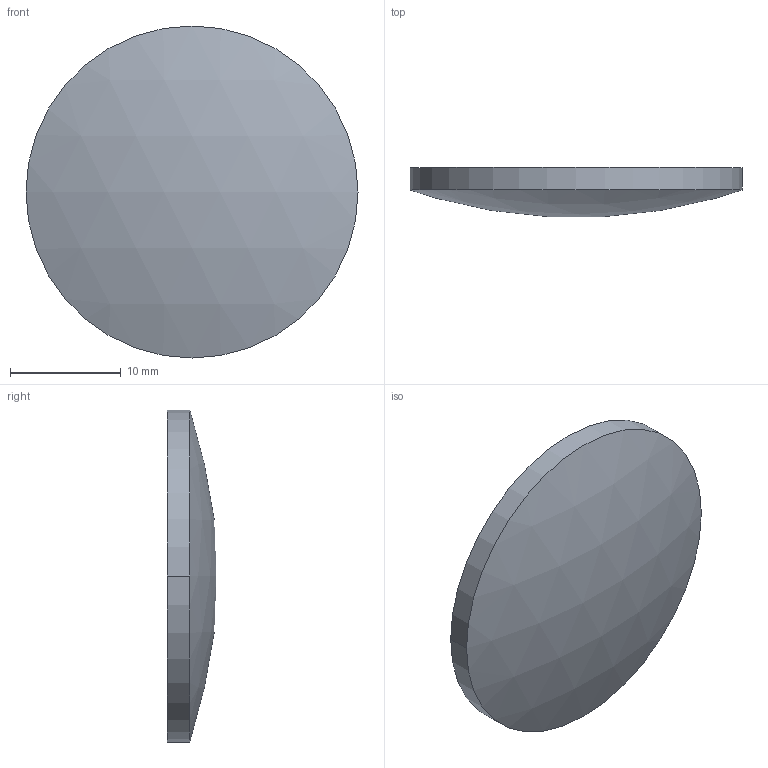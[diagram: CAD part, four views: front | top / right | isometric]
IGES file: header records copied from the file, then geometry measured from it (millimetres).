
Global section: file name: No Iges File Name specified; native system: AutoDesk Inventor R12.0; preprocessor: AutoDesk Inventor Iges Exporter R12.0; author: No Author specified; organization: No Organization specified; date: 20090518.164238; units: millimetre
Bounding box: 30 x 4.43 x 30 mm (x, y, z)
Volume: 2314.4 mm3; surface area: 1623.9 mm2
Topology: 1 solids, 1 shells, 4 faces, 6 edges, 4 vertices
Faces by surface type: cylinder 2, sphere 1, plane 1
